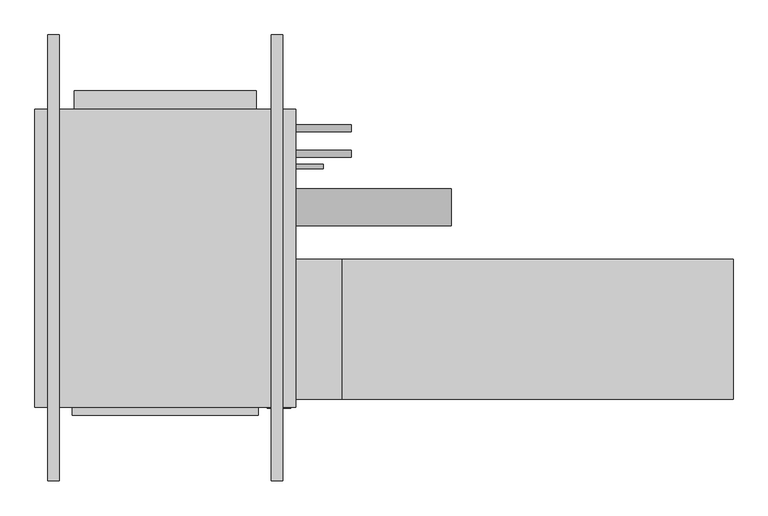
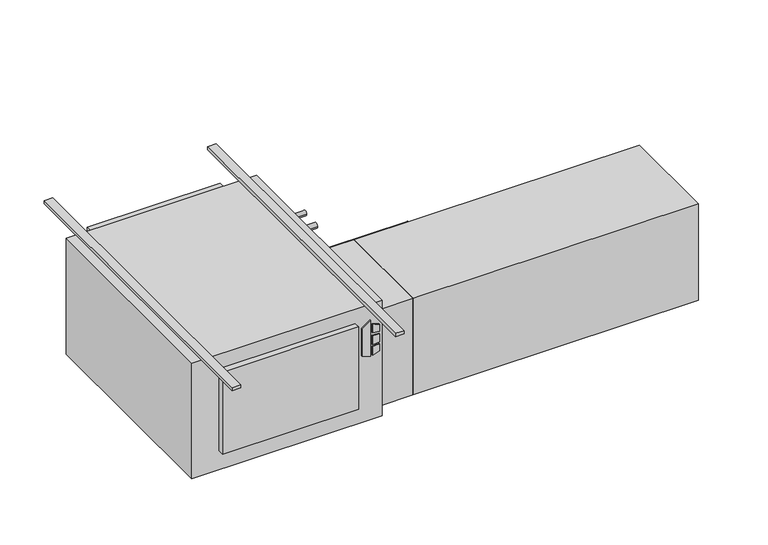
"""IFC4 building model written with IfcOpenShell, lengths in millimetres: proxy geometry."""

from ifc_helpers import new_model, si_unit, point, frame, frame_2d, origin, origin_with_axes, place, context, project, spatial, polyline, circle_curve, trimmed, segment, composite_curve, outline, extrude, source, transform, mapped, element, save


def mechanical_equipment_fa637ccc(model_context):
    return source(origin(), model_context, "Body", "SweptSolid", [
        extrude(outline(polyline([(-193.2519297, 430.2868862), (-203.2, 462.4602728), (-61.0290756, 462.4602728), (-84.0510817, 430.2868862), (-193.2519297, 430.2868862)])), frame((0.0, -647.7, 0.0), z_axis=(0.0, 1.0, 0.0), x_axis=(0.0, 0.0, 1.0)), (0.0, 0.0, 1.0), 3.175),
        extrude(outline(polyline([(-114.2526443, 469.2186058), (-117.4550368, 495.3), (-88.2261958, 495.3), (-80.1617807, 469.2186058), (-114.2526443, 469.2186058)])), frame((0.0, -647.7, 0.0), z_axis=(0.0, 1.0, 0.0), x_axis=(0.0, 0.0, 1.0)), (0.0, 0.0, 1.0), 3.175),
        extrude(outline(polyline([(-166.1161712, 495.3), (-169.7816721, 469.2186058), (-203.2, 469.2186058), (-194.5657628, 495.3), (-166.1161712, 495.3)])), frame((0.0, -647.7, 0.0), z_axis=(0.0, 1.0, 0.0), x_axis=(0.0, 0.0, 1.0)), (0.0, 0.0, 1.0), 3.175),
        extrude(outline(polyline([(-126.8010097, 495.3), (-124.5191834, 469.2186058), (-160.4567319, 469.2186058), (-157.7154669, 495.3), (-126.8010097, 495.3)])), frame((0.0, -647.7, 0.0), z_axis=(0.0, 1.0, 0.0), x_axis=(0.0, 0.0, 1.0)), (0.0, 0.0, 1.0), 3.175),
        extrude(outline(polyline([(406.4, -666.877), (-101.6, -666.877), (-101.6, -644.525), (406.4, -644.525), (406.4, -666.877)])), frame((0.0, 0.0, -381.0), z_axis=(0.0, 0.0, 1.0), x_axis=(1.0, 0.0, 0.0)), (0.0, 0.0, 1.0), 323.85),
        extrude(outline(polyline([(1701.8, -241.3), (1701.8, -622.3), (635.0, -622.3), (635.0, -241.3), (1701.8, -241.3)])), frame((0.0, 0.0, -431.8), z_axis=(0.0, 0.0, 1.0), x_axis=(1.0, 0.0, 0.0)), (0.0, 0.0, 1.0), 381.0),
        extrude(outline(polyline([(635.0, -241.3), (635.0, -622.3), (508.0, -622.3), (508.0, -241.3), (635.0, -241.3)])), frame((0.0, 0.0, -431.8), z_axis=(0.0, 0.0, 1.0), x_axis=(1.0, 0.0, 0.0)), (0.0, 0.0, 1.0), 381.0),
        extrude(outline(composite_curve([segment(trimmed(circle_curve(frame_2d((117.475, -171.45)), 9.525), [point((127.0, -171.45))], [point((107.95, -171.45))], False, "CARTESIAN"), True, "CONTINUOUS"), segment(trimmed(circle_curve(frame_2d((117.475, -171.45)), 9.525), [point((107.95, -171.45))], [point((127.0, -171.45))], False, "CARTESIAN"), True, "CONTINUOUS")], self_intersect=False)), frame((508.0, 0.0, 0.0), z_axis=(1.0, 0.0, 0.0), x_axis=(0.0, 1.0, 0.0)), (0.0, 0.0, 1.0), 152.4),
        extrude(outline(composite_curve([segment(trimmed(circle_curve(frame_2d((47.625, -177.8)), 9.525), [point((57.15, -177.8))], [point((38.1, -177.8))], False, "CARTESIAN"), True, "CONTINUOUS"), segment(trimmed(circle_curve(frame_2d((47.625, -177.8)), 9.525), [point((38.1, -177.8))], [point((57.15, -177.8))], False, "CARTESIAN"), True, "CONTINUOUS")], self_intersect=False)), frame((508.0, 0.0, 0.0), z_axis=(1.0, 0.0, 0.0), x_axis=(0.0, 1.0, 0.0)), (0.0, 0.0, 1.0), 152.4),
        extrude(outline(composite_curve([segment(trimmed(circle_curve(frame_2d((-98.4896516, -228.6360165)), 50.8), [point((-47.6896516, -228.6360165))], [point((-149.2896516, -228.6360165))], False, "CARTESIAN"), True, "CONTINUOUS"), segment(trimmed(circle_curve(frame_2d((-98.4896516, -228.6360165)), 50.8), [point((-149.2896516, -228.6360165))], [point((-47.6896516, -228.6360165))], False, "CARTESIAN"), True, "CONTINUOUS")], self_intersect=False)), frame((508.0, 0.0, 0.0), z_axis=(1.0, 0.0, 0.0), x_axis=(0.0, 1.0, 0.0)), (0.0, 0.0, 1.0), 425.45),
        extrude(outline(composite_curve([segment(trimmed(circle_curve(frame_2d((12.7, -409.575)), 6.35), [point((19.05, -409.575))], [point((6.35, -409.575))], False, "CARTESIAN"), True, "CONTINUOUS"), segment(trimmed(circle_curve(frame_2d((12.7, -409.575)), 6.35), [point((6.35, -409.575))], [point((19.05, -409.575))], False, "CARTESIAN"), True, "CONTINUOUS")], self_intersect=False)), frame((508.0, 0.0, 0.0), z_axis=(1.0, 0.0, 0.0), x_axis=(0.0, 1.0, 0.0)), (0.0, 0.0, 1.0), 76.2),
        extrude(outline(polyline([(508.0, 168.275), (508.0, -644.525), (-203.2, -644.525), (-203.2, 168.275), (508.0, 168.275)])), frame((0.0, 0.0, -457.2), z_axis=(0.0, 0.0, 1.0), x_axis=(1.0, 0.0, 0.0)), (0.0, 0.0, 1.0), 457.2),
        extrude(outline(polyline([(-95.25, 219.075), (400.05, 219.075), (400.05, 168.275), (-95.25, 168.275), (-95.25, 219.075)])), frame((0.0, 0.0, -381.0), z_axis=(0.0, 0.0, 1.0), x_axis=(1.0, 0.0, 0.0)), (0.0, 0.0, 1.0), 355.6),
        extrude(outline(polyline([(-136.525, 371.475), (-136.525, -844.677), (-168.275, -844.677), (-168.275, 371.475), (-136.525, 371.475)])), origin_with_axes(), (0.0, 0.0, 1.0), 12.7),
        extrude(outline(polyline([(473.075, 371.475), (473.075, -844.677), (441.325, -844.677), (441.325, 371.475), (473.075, 371.475)])), origin_with_axes(), (0.0, 0.0, 1.0), 12.7),
    ])


if __name__ == "__main__":
    model = new_model("IFC4")
    model_context = context("Model", 3, world=origin())
    ifc_project = project(units=[si_unit("LENGTHUNIT", "METRE", prefix="MILLI")], contexts=[model_context])
    site = spatial("IfcSite", under=ifc_project)
    building = spatial("IfcBuilding", under=site)
    placement = place(None, origin())
    mechanical_equipment_shape = mechanical_equipment_fa637ccc(model_context)
    element("IfcBuildingElementProxy", 1, Name="High_Capacity_Horizontal_Cabinet_Fan_Coil_Unit_-_HTY_-_IEC_-_2-Pipe_RH Side_2022 : Size 08 - 115v/60Hz/1Ph - 4/0 Coil - 4\" AirIn", ObjectType="High_Capacity_Horizontal_Cabinet_Fan_Coil_Unit_-_HTY_-_IEC_-_2-Pipe_RH Side_2022 : Size 08 - 115v/60Hz/1Ph - 4/0 Coil - 4\" AirIn", at=placement, inside=building, context=model_context, shape_type="MappedRepresentation", body=[
        mapped(mechanical_equipment_shape, transform((0.0, 0.0, 0.0), x_axis=(1.0, 0.0, 0.0), y_axis=(0.0, 1.0, 0.0), z_axis=(0.0, 0.0, 1.0))),
    ])
    save(model, "model.ifc")
